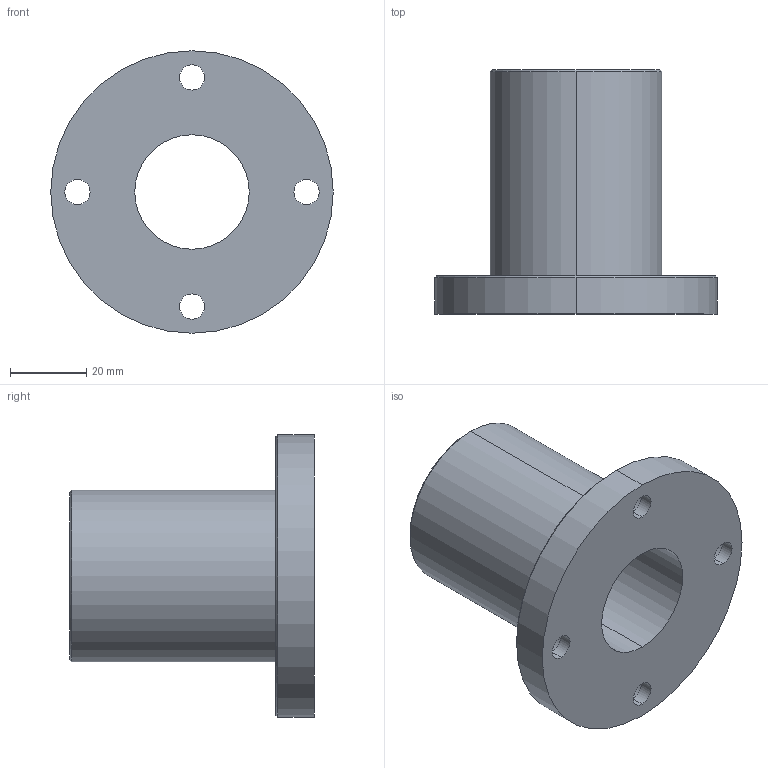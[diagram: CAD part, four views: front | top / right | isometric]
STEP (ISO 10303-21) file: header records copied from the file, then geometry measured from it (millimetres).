
FILE_DESCRIPTION (( 'STEP AP214' ), '1' );
FILE_NAME ('2.7038 Lineaarilaakeri LMF30UU.STEP', '2024-06-19T10:31:07', ( '' ), ( '' ), 'SwSTEP 2.0', 'SolidWorks 2024', '' );
FILE_SCHEMA (( 'AUTOMOTIVE_DESIGN' ));
Length unit declared in the file: millimetre
Products named in the file (1): 2.7038 Lineaarilaakeri LMF30UU
Bounding box: 74 x 64 x 74 mm (x, y, z)
Volume: 80656.5 mm3; surface area: 23983.6 mm2
Topology: 1 solids, 1 shells, 33 faces, 74 edges, 48 vertices
Faces by surface type: cylinder 22, plane 7, cone 4
Entity records: 987 total; most frequent: DIRECTION 190, CARTESIAN_POINT 156, ORIENTED_EDGE 148, AXIS2_PLACEMENT_3D 82, EDGE_CURVE 74, EDGE_LOOP 48, VERTEX_POINT 48, CIRCLE 48
